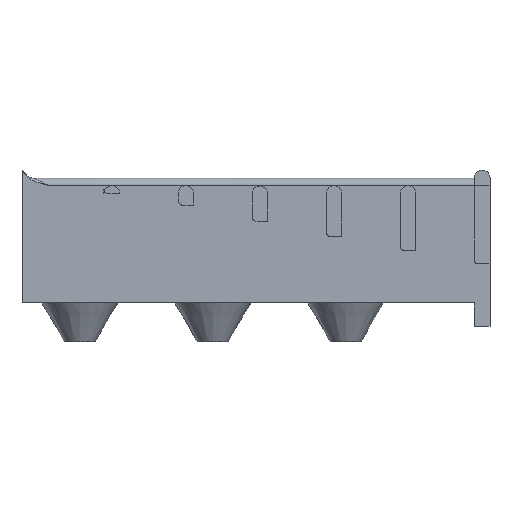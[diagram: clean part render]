
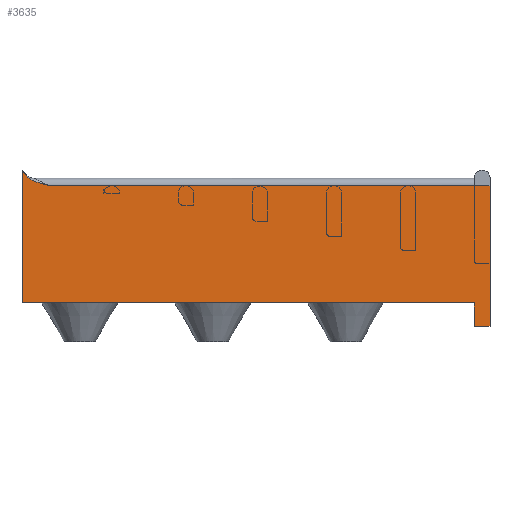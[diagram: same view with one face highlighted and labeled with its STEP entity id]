
A CAD part, left-side view. The second image highlights one B-rep face of the part: STEP entity #3635.
In plain terms, the highlighted planar face has unit normal (-1, 0, 0).
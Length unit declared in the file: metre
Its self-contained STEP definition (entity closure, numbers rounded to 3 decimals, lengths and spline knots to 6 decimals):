
#203=B_SPLINE_CURVE_WITH_KNOTS('',3,(#6435,#6436,#6437,#6438,#6439,#6440),
 .UNSPECIFIED.,.F.,.F.,(4,1,1,4),(0.,0.001656,
0.003312,0.006625),.UNSPECIFIED.);
#310=PLANE('',#4117);
#1158=ORIENTED_EDGE('',*,*,#2015,.T.);
#1159=ORIENTED_EDGE('',*,*,#2025,.T.);
#1160=ORIENTED_EDGE('',*,*,#1827,.T.);
#1161=ORIENTED_EDGE('',*,*,#2024,.F.);
#1162=ORIENTED_EDGE('',*,*,#1810,.F.);
#1163=ORIENTED_EDGE('',*,*,#1818,.T.);
#1164=ORIENTED_EDGE('',*,*,#1824,.F.);
#1165=ORIENTED_EDGE('',*,*,#1804,.T.);
#1804=EDGE_CURVE('',#2243,#2312,#2621,.T.);
#1810=EDGE_CURVE('',#2318,#2319,#2624,.T.);
#1818=EDGE_CURVE('',#2318,#2325,#2630,.T.);
#1824=EDGE_CURVE('',#2243,#2325,#2632,.T.);
#1827=EDGE_CURVE('',#2331,#2330,#2635,.T.);
#2015=EDGE_CURVE('',#2312,#2467,#2720,.T.);
#2024=EDGE_CURVE('',#2319,#2330,#2726,.T.);
#2025=EDGE_CURVE('',#2467,#2331,#203,.F.);
#2243=VERTEX_POINT('',#5662);
#2312=VERTEX_POINT('',#5875);
#2318=VERTEX_POINT('',#5888);
#2319=VERTEX_POINT('',#5890);
#2325=VERTEX_POINT('',#5904);
#2330=VERTEX_POINT('',#5934);
#2331=VERTEX_POINT('',#5936);
#2467=VERTEX_POINT('',#6412);
#2621=LINE('',#5876,#2856);
#2624=LINE('',#5889,#2859);
#2630=LINE('',#5905,#2865);
#2632=LINE('',#5928,#2867);
#2635=LINE('',#5935,#2870);
#2720=LINE('',#6413,#2955);
#2726=LINE('',#6433,#2961);
#2856=VECTOR('',#4648,1.);
#2859=VECTOR('',#4659,1.);
#2865=VECTOR('',#4671,1.);
#2867=VECTOR('',#4683,1.);
#2870=VECTOR('',#4688,1.);
#2955=VECTOR('',#5031,1.);
#2961=VECTOR('',#5051,1.);
#3095=EDGE_LOOP('',(#1158,#1159,#1160,#1161,#1162,#1163,#1164,#1165));
#3333=FACE_BOUND('',#3095,.T.);
#3635=ADVANCED_FACE('',(#3333),#310,.T.);
#4117=AXIS2_PLACEMENT_3D('',#6434,#5052,#5053);
#4648=DIRECTION('',(0.,0.,1.));
#4659=DIRECTION('',(0.,1.,0.));
#4671=DIRECTION('',(0.,0.,-1.));
#4683=DIRECTION('',(0.,1.,0.));
#4688=DIRECTION('',(0.,0.621,0.784));
#5031=DIRECTION('',(0.,1.,0.));
#5051=DIRECTION('',(0.,0.,1.));
#5052=DIRECTION('',(-1.,0.,0.));
#5053=DIRECTION('',(0.,0.,1.));
#5662=CARTESIAN_POINT('',(-0.047684,-0.12,-0.026333));
#5875=CARTESIAN_POINT('',(-0.047684,-0.12,0.009735));
#5876=CARTESIAN_POINT('',(-0.047684,-0.12,-0.004299));
#5888=CARTESIAN_POINT('',(-0.047684,-0.116,-0.020333));
#5889=CARTESIAN_POINT('',(-0.047684,-0.12,-0.020333));
#5890=CARTESIAN_POINT('',(-0.047684,0.,-0.020333));
#5904=CARTESIAN_POINT('',(-0.047684,-0.116,-0.026333));
#5905=CARTESIAN_POINT('',(-0.047684,-0.116,-0.004299));
#5928=CARTESIAN_POINT('',(-0.047684,-0.12,-0.026333));
#5934=CARTESIAN_POINT('',(-0.047684,0.,0.013735));
#5935=CARTESIAN_POINT('',(-0.047684,-0.001947,0.01128));
#5936=CARTESIAN_POINT('',(-0.047684,-0.001052,0.012409));
#6412=CARTESIAN_POINT('',(-0.047684,-0.007001,0.009735));
#6413=CARTESIAN_POINT('',(-0.047684,-0.12,0.009735));
#6433=CARTESIAN_POINT('',(-0.047684,0.,-0.004299));
#6434=CARTESIAN_POINT('',(-0.047684,-0.12,-0.004299));
#6435=CARTESIAN_POINT('',(-0.047684,-0.001052,0.012409));
#6436=CARTESIAN_POINT('',(-0.047684,-0.0014,0.01197));
#6437=CARTESIAN_POINT('',(-0.047684,-0.002272,0.011263));
#6438=CARTESIAN_POINT('',(-0.047684,-0.004302,0.010387));
#6439=CARTESIAN_POINT('',(-0.047684,-0.00593,0.010001));
#6440=CARTESIAN_POINT('',(-0.047684,-0.007001,0.009735));
